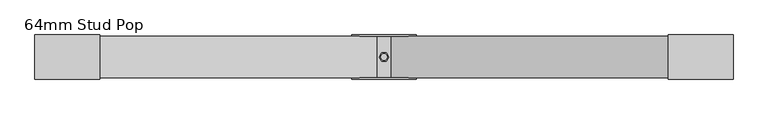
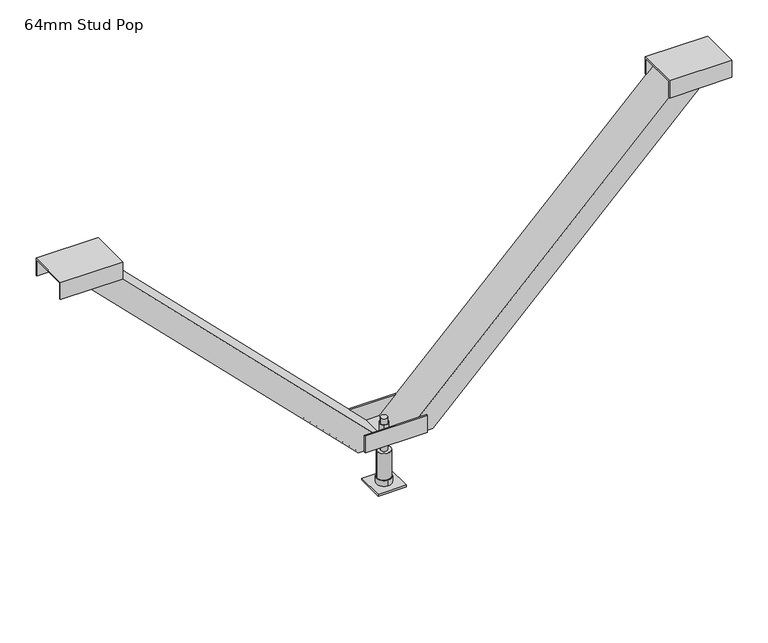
"""IFC4 building model written with IfcOpenShell, lengths in millimetres: beam geometry, Vertibrace U-Channel  Brace : 64mm Stud Pop."""

from ifc_helpers import new_model, si_unit, frame, origin, origin_with_axes, place, context, project, spatial, polyline, circle_curve, outline, extrude, faceted_brep, source, transform, mapped, element, save
from ifc_brep_helpers import plane_surface, cylinder_surface, advanced_brep


def beam_64mm_stud_pop_ea3ec6bf(model_context):
    return source(origin(), model_context, "Body", "SolidModel", [
        extrude(outline(polyline([(34.0, 550.0), (34.0, 520.9584251), (32.0, 520.9584251), (32.0, 548.0), (-32.0, 548.0), (-32.0, 520.9584251), (-34.0, 520.9584251), (-34.0, 550.0), (34.0, 550.0)])), frame((438.3, 0.0, 0.0), z_axis=(1.0, 0.0, 0.0), x_axis=(0.0, 1.0, 0.0)), (0.0, 0.0, 1.0), 100.0),
        extrude(outline(polyline([(34.0, 550.0), (34.0, 520.9584251), (32.0, 520.9584251), (32.0, 548.0), (-32.0, 548.0), (-32.0, 520.9584251), (-34.0, 520.9584251), (-34.0, 550.0), (34.0, 550.0)])), frame((-538.3, 0.0, 0.0), z_axis=(1.0, 0.0, 0.0), x_axis=(0.0, 1.0, 0.0)), (0.0, 0.0, 1.0), 100.0),
        extrude(outline(polyline([(-34.0, 89.7), (-34.0, 118.7415749), (-32.0, 118.7415749), (-32.0, 91.7), (32.0, 91.7), (32.0, 118.7415749), (34.0, 118.7415749), (34.0, 89.7), (-34.0, 89.7)])), frame((-50.0, 0.0, 0.0), z_axis=(1.0, 0.0, 0.0), x_axis=(0.0, 1.0, 0.0)), (0.0, 0.0, 1.0), 100.0),
        extrude(outline(polyline([(22.5, 22.5), (22.5, -22.5), (-22.5, -22.5), (-22.5, 22.5), (22.5, 22.5)])), origin_with_axes(), (0.0, 0.0, 1.0), 3.0),
        advanced_brep(
        [(-5.0, 0.0, 0.0), (5.0, 0.0, 0.0), (-5.0, 0.0, 113.0), (5.0, 0.0, 113.0), (5.0, 0.0, 3.0), (-5.0, 0.0, 3.0), (-5.0, 0.0, 103.4), (5.0, 0.0, 103.4), (-5.0, 0.0, 58.0), (5.0, 0.0, 58.0), (5.0, 0.0, 83.0), (-5.0, 0.0, 83.0), (5.0, 0.0, 91.7), (-5.0, 0.0, 91.7), (-5.0, 0.0, 89.7), (5.0, 0.0, 89.7), (-10.5, 0.0, 58.0), (10.5, 0.0, 58.0), (-10.5, 0.0, 13.0), (10.5, 0.0, 13.0), (0.0, -12.0, 13.0), (0.0, 12.0, 13.0), (3.75, 6.4951905, 103.4), (-3.75, 6.4951905, 103.4), (-7.5, 0.0, 103.4), (-3.75, -6.4951905, 103.4), (3.75, -6.4951905, 103.4), (7.5, 0.0, 103.4), (3.75, 6.4951905, 91.7), (7.5, 0.0, 91.7), (3.75, -6.4951905, 91.7), (-3.75, -6.4951905, 91.7), (-7.5, 0.0, 91.7), (-3.75, 6.4951905, 91.7), (-10.9696551, 0.0, 89.7), (-5.4848276, -9.5, 89.7), (5.4848276, -9.5, 89.7), (10.9696551, 0.0, 89.7), (5.4848276, 9.5, 89.7), (-5.4848276, 9.5, 89.7), (-10.9696551, 0.0, 83.0), (-5.4848276, 9.5, 83.0), (5.4848276, 9.5, 83.0), (10.9696551, 0.0, 83.0), (5.4848276, -9.5, 83.0), (-5.4848276, -9.5, 83.0), (0.0, -12.0, 3.0), (0.0, 12.0, 3.0)],
        [
            (0, 1, circle_curve(frame((0.0, 0.0, 0.0), z_axis=(0.0, 0.0, -1.0), x_axis=(1.0, 0.0, 0.0)), 5.0)),
            (1, 0, circle_curve(frame((0.0, 0.0, 0.0), z_axis=(0.0, 0.0, -1.0), x_axis=(1.0, 0.0, 0.0)), 5.0)),
            (2, 3, circle_curve(frame((0.0, 0.0, 113.0), z_axis=(0.0, 0.0, 1.0), x_axis=(1.0, 0.0, 0.0)), 5.0)),
            (3, 2, circle_curve(frame((0.0, 0.0, 113.0), z_axis=(0.0, 0.0, 1.0), x_axis=(1.0, 0.0, 0.0)), 5.0)),
            (1, 4),
            (4, 5, circle_curve(frame((0.0, 0.0, 3.0), z_axis=(0.0, 0.0, -1.0), x_axis=(1.0, 0.0, 0.0)), 5.0)),
            (5, 0),
            (2, 6),
            (6, 7, circle_curve(frame((0.0, 0.0, 103.4), z_axis=(0.0, 0.0, 1.0), x_axis=(1.0, 0.0, 0.0)), 5.0)),
            (7, 3),
            (8, 9, circle_curve(frame((0.0, 0.0, 58.0), z_axis=(0.0, 0.0, 1.0), x_axis=(1.0, 0.0, 0.0)), 5.0)),
            (9, 10),
            (10, 11, circle_curve(frame((0.0, 0.0, 83.0), z_axis=(0.0, 0.0, -1.0), x_axis=(1.0, 0.0, 0.0)), 5.0)),
            (11, 8),
            (12, 13, circle_curve(frame((0.0, 0.0, 91.7), z_axis=(0.0, 0.0, -1.0), x_axis=(1.0, 0.0, 0.0)), 5.0)),
            (13, 14),
            (14, 15, circle_curve(frame((0.0, 0.0, 89.7), z_axis=(0.0, 0.0, 1.0), x_axis=(1.0, 0.0, 0.0)), 5.0)),
            (15, 12),
            (5, 4, circle_curve(frame((0.0, 0.0, 3.0), z_axis=(0.0, 0.0, -1.0), x_axis=(1.0, 0.0, 0.0)), 5.0)),
            (7, 6, circle_curve(frame((0.0, 0.0, 103.4), z_axis=(0.0, 0.0, 1.0), x_axis=(1.0, 0.0, 0.0)), 5.0)),
            (9, 8, circle_curve(frame((0.0, 0.0, 58.0), z_axis=(0.0, 0.0, 1.0), x_axis=(1.0, 0.0, 0.0)), 5.0)),
            (11, 10, circle_curve(frame((0.0, 0.0, 83.0), z_axis=(0.0, 0.0, -1.0), x_axis=(1.0, 0.0, 0.0)), 5.0)),
            (13, 12, circle_curve(frame((0.0, 0.0, 91.7), z_axis=(0.0, 0.0, -1.0), x_axis=(1.0, 0.0, 0.0)), 5.0)),
            (15, 14, circle_curve(frame((0.0, 0.0, 89.7), z_axis=(0.0, 0.0, 1.0), x_axis=(1.0, 0.0, 0.0)), 5.0)),
            (16, 17, circle_curve(frame((0.0, 0.0, 58.0), z_axis=(0.0, 0.0, 1.0), x_axis=(1.0, 0.0, 0.0)), 10.5)),
            (17, 16, circle_curve(frame((0.0, 0.0, 58.0), z_axis=(0.0, 0.0, 1.0), x_axis=(1.0, 0.0, 0.0)), 10.5)),
            (16, 18),
            (18, 19, circle_curve(frame((0.0, 0.0, 13.0), z_axis=(0.0, 0.0, 1.0), x_axis=(1.0, 0.0, 0.0)), 10.5)),
            (19, 17),
            (19, 18, circle_curve(frame((0.0, 0.0, 13.0), z_axis=(0.0, 0.0, 1.0), x_axis=(1.0, 0.0, 0.0)), 10.5)),
            (20, 21, circle_curve(frame((0.0, 0.0, 13.0), z_axis=(0.0, 0.0, 1.0), x_axis=(0.0, 1.0, 0.0)), 12.0)),
            (21, 20, circle_curve(frame((0.0, 0.0, 13.0), z_axis=(0.0, 0.0, 1.0), x_axis=(0.0, 1.0, 0.0)), 12.0)),
            (22, 23),
            (23, 24),
            (24, 25),
            (25, 26),
            (26, 27),
            (27, 22),
            (28, 29),
            (29, 30),
            (30, 31),
            (31, 32),
            (32, 33),
            (33, 28),
            (22, 28),
            (33, 23),
            (32, 24),
            (31, 25),
            (30, 26),
            (29, 27),
            (34, 35),
            (35, 36),
            (36, 37),
            (37, 38),
            (38, 39),
            (39, 34),
            (40, 41),
            (41, 42),
            (42, 43),
            (43, 44),
            (44, 45),
            (45, 40),
            (34, 40),
            (45, 35),
            (44, 36),
            (43, 37),
            (42, 38),
            (41, 39),
            (46, 47, circle_curve(frame((0.0, 0.0, 3.0), z_axis=(0.0, 0.0, -1.0), x_axis=(0.0, 1.0, 0.0)), 12.0)),
            (47, 46, circle_curve(frame((0.0, 0.0, 3.0), z_axis=(0.0, 0.0, -1.0), x_axis=(0.0, 1.0, 0.0)), 12.0)),
            (47, 21),
            (20, 46),
        ],
        [
            plane_surface(frame((5.0, 0.0, 0.0), z_axis=(0.0, 0.0, -1.0), x_axis=(0.0, -1.0, 0.0))),
            plane_surface(frame((5.0, 0.0, 113.0), z_axis=(0.0, 0.0, 1.0), x_axis=(0.0, 1.0, 0.0))),
            cylinder_surface(origin_with_axes(), 5.0),
            plane_surface(frame((10.5, 0.0, 58.0), z_axis=(0.0, 0.0, 1.0), x_axis=(0.0, 1.0, 0.0))),
            cylinder_surface(frame((0.0, 0.0, 13.0), z_axis=(0.0, 0.0, 1.0), x_axis=(1.0, 0.0, 0.0)), 10.5),
            plane_surface(frame((0.0, 12.0, 13.0), z_axis=(0.0, 0.0, 1.0), x_axis=(-1.0, 0.0, 0.0))),
            plane_surface(frame((3.75, 6.4951905, 103.4), z_axis=(0.0, 0.0, 1.0), x_axis=(-1.0, 0.0, 0.0))),
            plane_surface(frame((3.75, 6.4951905, 91.7), z_axis=(0.0, 0.0, -1.0), x_axis=(1.0, 0.0, 0.0))),
            plane_surface(frame((3.75, 6.4951905, 103.4), z_axis=(0.0, 1.0, 0.0), x_axis=(0.0, 0.0, -1.0))),
            plane_surface(frame((-3.75, 6.4951905, 103.4), z_axis=(-0.866025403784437, 0.5000000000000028, 0.0), x_axis=(0.0, 0.0, -1.0))),
            plane_surface(frame((-7.5, 0.0, 103.4), z_axis=(-0.8660254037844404, -0.4999999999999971, 0.0), x_axis=(0.0, 0.0, -1.0))),
            plane_surface(frame((-3.75, -6.4951905, 103.4), z_axis=(0.0, -1.0, 0.0), x_axis=(0.0, 0.0, -1.0))),
            plane_surface(frame((3.75, -6.4951905, 103.4), z_axis=(0.8660254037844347, -0.500000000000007, 0.0), x_axis=(0.0, 0.0, -1.0))),
            plane_surface(frame((7.5, 0.0, 103.4), z_axis=(0.8660254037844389, 0.49999999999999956, 0.0), x_axis=(0.0, 0.0, -1.0))),
            plane_surface(frame((-10.9696551, 0.0, 89.7), z_axis=(0.0, 0.0, 1.0000000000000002), x_axis=(0.4999999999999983, -0.8660254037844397, 0.0))),
            plane_surface(frame((-10.9696551, 0.0, 83.0), z_axis=(0.0, 0.0, -1.0000000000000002), x_axis=(-0.4999999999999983, 0.8660254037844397, 0.0))),
            plane_surface(frame((-10.9696551, 0.0, 89.7), z_axis=(-0.8660254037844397, -0.4999999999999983, 0.0), x_axis=(0.0, 0.0, -1.0))),
            plane_surface(frame((-5.4848276, -9.5, 89.7), z_axis=(0.0, -1.0, 0.0), x_axis=(0.0, 0.0, -1.0))),
            plane_surface(frame((5.4848276, -9.5, 89.7), z_axis=(0.8660254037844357, -0.5000000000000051, 0.0), x_axis=(0.0, 0.0, -1.0))),
            plane_surface(frame((10.9696551, 0.0, 89.7), z_axis=(0.8660254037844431, 0.4999999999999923, 0.0), x_axis=(0.0, 0.0, -1.0))),
            plane_surface(frame((5.4848276, 9.5, 89.7), z_axis=(0.0, 1.0, 0.0), x_axis=(0.0, 0.0, -1.0))),
            plane_surface(frame((-5.4848276, 9.5, 89.7), z_axis=(-0.8660254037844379, 0.5000000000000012, 0.0), x_axis=(0.0, 0.0, -1.0))),
            plane_surface(frame((0.0, 12.0, 3.0), z_axis=(0.0, 0.0, -1.0), x_axis=(1.0, 0.0, 0.0))),
            cylinder_surface(frame((0.0, 0.0, 3.0), z_axis=(0.0, 0.0, 1.0), x_axis=(0.0, 1.0, 0.0)), 12.0),
        ],
        [
            (0, [[1, 2]]),
            (1, [[3, 4]]),
            (2, [[-2, 5, 6, 7]]),
            (2, [[-3, 8, 9, 10]]),
            (2, [[11, 12, 13, 14]]),
            (2, [[15, 16, 17, 18]]),
            (2, [[-1, -7, 19, -5]]),
            (2, [[-4, -10, 20, -8]]),
            (2, [[21, -14, 22, -12]]),
            (2, [[23, -18, 24, -16]]),
            (3, [[25, 26], [-11, -21]]),
            (4, [[-25, 27, 28, 29]]),
            (4, [[-26, -29, 30, -27]]),
            (5, [[31, 32], [-28, -30]]),
            (6, [[33, 34, 35, 36, 37, 38], [-9, -20]]),
            (7, [[39, 40, 41, 42, 43, 44], [-15, -23]]),
            (8, [[-33, 45, -44, 46]]),
            (9, [[-34, -46, -43, 47]]),
            (10, [[-35, -47, -42, 48]]),
            (11, [[-36, -48, -41, 49]]),
            (12, [[-37, -49, -40, 50]]),
            (13, [[-38, -50, -39, -45]]),
            (14, [[51, 52, 53, 54, 55, 56], [-17, -24]]),
            (15, [[57, 58, 59, 60, 61, 62], [-13, -22]]),
            (16, [[-51, 63, -62, 64]]),
            (17, [[-52, -64, -61, 65]]),
            (18, [[-53, -65, -60, 66]]),
            (19, [[-54, -66, -59, 67]]),
            (20, [[-55, -67, -58, 68]]),
            (21, [[-56, -68, -57, -63]]),
            (22, [[69, 70], [-6, -19]]),
            (23, [[-70, 71, -31, 72]]),
            (23, [[-69, -72, -32, -71]]),
        ],
    ),
        faceted_brep([(10.0, 32.0, 91.7), (59.4974747, 32.0, 91.7), (59.4974747, 22.0, 91.7), (56.6690476, 22.0, 91.7), (56.6690476, 30.0, 91.7), (12.8284271, 30.0, 91.7), (12.8284271, -30.0, 91.7), (56.6690476, -30.0, 91.7), (56.6690476, -22.0, 91.7), (59.4974747, -22.0, 91.7), (59.4974747, -32.0, 91.7), (10.0, -32.0, 91.7), (466.3, 32.0, 548.0), (515.7974747, 32.0, 548.0), (515.7974747, 22.0, 548.0), (512.9690476, 22.0, 548.0), (512.9690476, 30.0, 548.0), (469.1284271, 30.0, 548.0), (469.1284271, -30.0, 548.0), (512.9690476, -30.0, 548.0), (512.9690476, -22.0, 548.0), (515.7974747, -22.0, 548.0), (515.7974747, -32.0, 548.0), (466.3, -32.0, 548.0)], [[[0, 1, 2, 3, 4, 5, 6, 7, 8, 9, 10, 11]], [[1, 0, 12, 13]], [[2, 1, 13, 14]], [[3, 2, 14, 15]], [[4, 3, 15, 16]], [[5, 4, 16, 17]], [[6, 5, 17, 18]], [[7, 6, 18, 19]], [[8, 7, 19, 20]], [[9, 8, 20, 21]], [[10, 9, 21, 22]], [[11, 10, 22, 23]], [[0, 11, 23, 12]], [[13, 12, 23, 22, 21, 20, 19, 18, 17, 16, 15, 14]]]),
        faceted_brep([(-59.4974747, -32.0, 91.7), (-10.0, -32.0, 91.7), (-466.3, -32.0, 548.0), (-515.7974747, -32.0, 548.0), (-59.4974747, -22.0, 91.7), (-515.7974747, -22.0, 548.0), (-10.0, 32.0, 91.7), (-59.4974747, 32.0, 91.7), (-515.7974747, 32.0, 548.0), (-466.3, 32.0, 548.0), (-56.6690476, -22.0, 91.7), (-56.6690476, -30.0, 91.7), (-12.8284271, -30.0, 91.7), (-12.8284271, 30.0, 91.7), (-56.6690476, 30.0, 91.7), (-56.6690476, 22.0, 91.7), (-59.4974747, 22.0, 91.7), (-512.9690476, -22.0, 548.0), (-512.9690476, -30.0, 548.0), (-469.1284271, -30.0, 548.0), (-469.1284271, 30.0, 548.0), (-512.9690476, 30.0, 548.0), (-512.9690476, 22.0, 548.0), (-515.7974747, 22.0, 548.0)], [[[0, 1, 2, 3]], [[4, 0, 3, 5]], [[6, 7, 8, 9]], [[1, 6, 9, 2]], [[1, 0, 4, 10, 11, 12, 13, 14, 15, 16, 7, 6]], [[10, 4, 5, 17]], [[11, 10, 17, 18]], [[12, 11, 18, 19]], [[13, 12, 19, 20]], [[14, 13, 20, 21]], [[15, 14, 21, 22]], [[16, 15, 22, 23]], [[7, 16, 23, 8]], [[3, 2, 9, 8, 23, 22, 21, 20, 19, 18, 17, 5]]]),
    ])


if __name__ == "__main__":
    model = new_model("IFC4")
    model_context = context("Model", 3, world=origin())
    ifc_project = project(units=[si_unit("LENGTHUNIT", "METRE", prefix="MILLI")], contexts=[model_context])
    site = spatial("IfcSite", under=ifc_project)
    building = spatial("IfcBuilding", under=site)
    placement = place(None, origin())
    beam_64mm_stud_pop_shape = beam_64mm_stud_pop_ea3ec6bf(model_context)
    element("IfcBeam", 1, ObjectType="Vertibrace U-Channel  Brace : 64mm Stud Pop", at=placement, inside=building, context=model_context, shape_type="MappedRepresentation", body=[
        mapped(beam_64mm_stud_pop_shape, transform((0.0, 0.0, 0.0), x_axis=(1.0, 0.0, 0.0), y_axis=(0.0, 1.0, 0.0), z_axis=(0.0, 0.0, 1.0))),
    ])
    save(model, "model.ifc")
